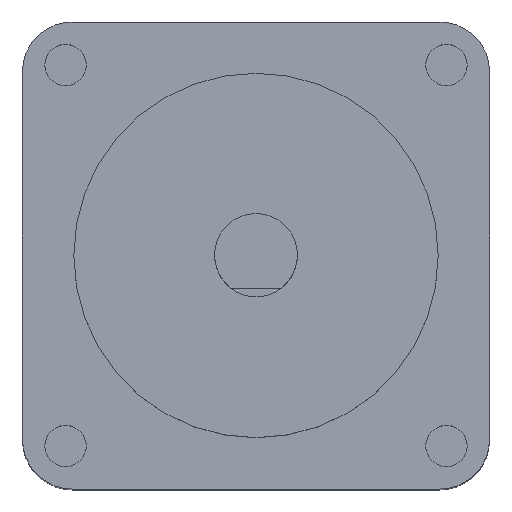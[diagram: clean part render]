
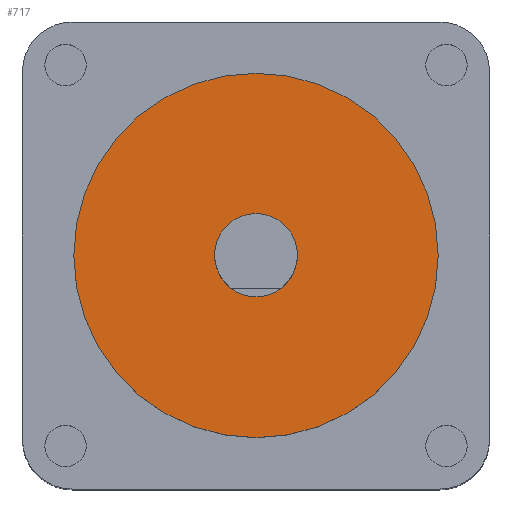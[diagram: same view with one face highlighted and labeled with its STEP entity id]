
A CAD part, top view. The second image highlights one B-rep face of the part: STEP entity #717.
In plain terms, the highlighted planar face has unit normal (0, 0, 1).
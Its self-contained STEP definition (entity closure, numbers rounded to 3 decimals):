
#6 = EDGE_LOOP ( 'NONE', ( #154, #156 ) ) ;
#24 = EDGE_LOOP ( 'NONE', ( #153, #151 ) ) ;
#151 = ORIENTED_EDGE ( 'NONE', *, *, #839, .T. ) ;
#153 = ORIENTED_EDGE ( 'NONE', *, *, #873, .T. ) ;
#154 = ORIENTED_EDGE ( 'NONE', *, *, #849, .F. ) ;
#156 = ORIENTED_EDGE ( 'NONE', *, *, #833, .F. ) ;
#172 = VERTEX_POINT ( 'NONE', #823 ) ;
#174 = VERTEX_POINT ( 'NONE', #821 ) ;
#176 = VERTEX_POINT ( 'NONE', #766 ) ;
#179 = VERTEX_POINT ( 'NONE', #794 ) ;
#238 = FACE_OUTER_BOUND ( 'NONE', #24, .T. ) ;
#239 = FACE_BOUND ( 'NONE', #6, .T. ) ;
#314 = CIRCLE ( 'NONE', #318, 2.5 ) ;
#318 = AXIS2_PLACEMENT_3D ( 'NONE', #520, #521, #522 ) ;
#327 = AXIS2_PLACEMENT_3D ( 'NONE', #491, #492, #493 ) ;
#335 = AXIS2_PLACEMENT_3D ( 'NONE', #473, #474, #475 ) ;
#338 = CIRCLE ( 'NONE', #335, 2.5 ) ;
#349 = CIRCLE ( 'NONE', #327, 11. ) ;
#362 = AXIS2_PLACEMENT_3D ( 'NONE', #697, #733, #643 ) ;
#473 = CARTESIAN_POINT ( 'NONE',  ( 0., 0., 34. ) ) ;
#474 = DIRECTION ( 'NONE',  ( 0., 0., 1. ) ) ;
#475 = DIRECTION ( 'NONE',  ( 1., 0., 0. ) ) ;
#491 = CARTESIAN_POINT ( 'NONE',  ( 0., 0., 34. ) ) ;
#492 = DIRECTION ( 'NONE',  ( 0., 0., 1. ) ) ;
#493 = DIRECTION ( 'NONE',  ( 1., 0., 0. ) ) ;
#520 = CARTESIAN_POINT ( 'NONE',  ( 0., 0., 34. ) ) ;
#521 = DIRECTION ( 'NONE',  ( 0., 0., 1. ) ) ;
#522 = DIRECTION ( 'NONE',  ( 1., 0., 0. ) ) ;
#580 = CARTESIAN_POINT ( 'NONE',  ( 0., 0., 34. ) ) ;
#581 = DIRECTION ( 'NONE',  ( 0., 0., 1. ) ) ;
#582 = DIRECTION ( 'NONE',  ( 1., 0., 0. ) ) ;
#643 = DIRECTION ( 'NONE',  ( 1., 0., 0. ) ) ;
#667 = AXIS2_PLACEMENT_3D ( 'NONE', #580, #581, #582 ) ;
#690 = CIRCLE ( 'NONE', #667, 11. ) ;
#696 = PLANE ( 'NONE',  #362 ) ;
#697 = CARTESIAN_POINT ( 'NONE',  ( 0., 0., 34. ) ) ;
#717 = ADVANCED_FACE ( 'NONE', ( #238, #239 ), #696, .T. ) ;
#733 = DIRECTION ( 'NONE',  ( 0., 0., 1. ) ) ;
#766 = CARTESIAN_POINT ( 'NONE',  ( -2.5, 0., 34. ) ) ;
#794 = CARTESIAN_POINT ( 'NONE',  ( 2.5, 0., 34. ) ) ;
#821 = CARTESIAN_POINT ( 'NONE',  ( -11., 0., 34. ) ) ;
#823 = CARTESIAN_POINT ( 'NONE',  ( 11., 0., 34. ) ) ;
#833 = EDGE_CURVE ( 'NONE', #179, #176, #338, .T. ) ;
#839 = EDGE_CURVE ( 'NONE', #172, #174, #349, .T. ) ;
#849 = EDGE_CURVE ( 'NONE', #176, #179, #314, .T. ) ;
#873 = EDGE_CURVE ( 'NONE', #174, #172, #690, .T. ) ;
